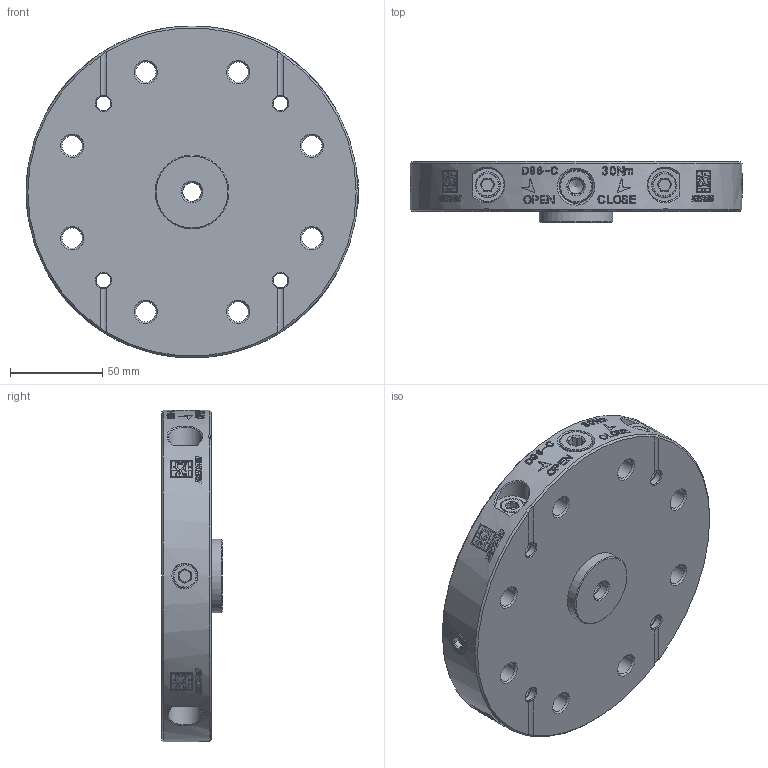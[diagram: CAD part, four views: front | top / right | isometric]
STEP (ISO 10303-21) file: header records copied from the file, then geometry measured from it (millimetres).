
FILE_DESCRIPTION(/* description */ (''),/* implementation_level */ '2;1');
FILE_NAME(/* name */ '',/* time_stamp */ '2024-11-20T20:20:23+08:00',/* author */ (''),/* organization */ (''),/* preprocessor_version */ 'ST-DEVELOPER v11',/* originating_system */ 'SIEMENS PLM Software NX 7.0',/* authorisation */ '');
FILE_SCHEMA (('CONFIG_CONTROL_DESIGN'));
Products named in the file (1): Admi50CF911k
Bounding box: 180 x 33 x 180 mm (x, y, z)
Volume: 569236.1 mm3; surface area: 109094.8 mm2
Topology: 10 solids, 10 shells, 1277 faces, 3314 edges, 2176 vertices
Faces by surface type: plane 545, bspline 398, cylinder 255, cone 61, torus 18
Full cylindrical faces by diameter (mm): 4.2 x4, 5 x2, 6 x2, 8 x5, 10 x2, 10.5 x1, 11 x9, 12 x11, 13.2 x2, 14 x9, 14.8 x1, 17.8 x2, 18 x16, 18.2 x1, 19 x4, 19.5 x4, 19.7 x4, 20 x5, 21 x1, 40 x2, 180 x1
Entity records: 55906 total; most frequent: CARTESIAN_POINT 31868, ORIENTED_EDGE 6084, EDGE_CURVE 3042, DIRECTION 2550, B_SPLINE_CURVE_WITH_KNOTS 2512, VERTEX_POINT 2079, EDGE_LOOP 1598, ADVANCED_FACE 1267
